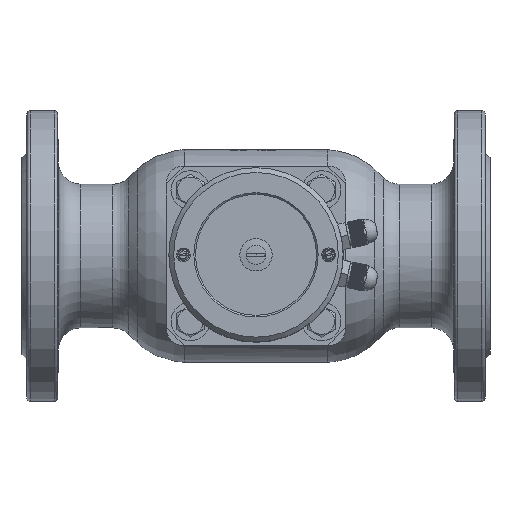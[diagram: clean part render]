
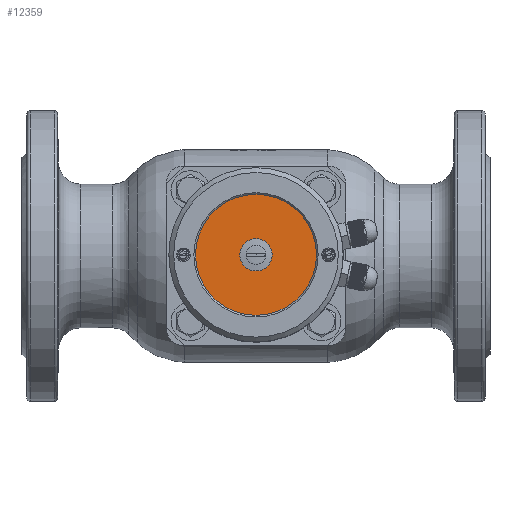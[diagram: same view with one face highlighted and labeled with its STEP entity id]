
A CAD part, top view. The second image highlights one B-rep face of the part: STEP entity #12359.
In plain terms, the highlighted planar face has unit normal (0, 0, 1).
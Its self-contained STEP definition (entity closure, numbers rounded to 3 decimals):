
#12359=ADVANCED_FACE('',(#33839,#33841),#33843,.T.);
#33839=FACE_BOUND('',#33840,.T.);
#33840=EDGE_LOOP('',(#46947));
#33841=FACE_BOUND('',#33842,.T.);
#33842=EDGE_LOOP('',(#46948));
#33843=PLANE('',#33844);
#33844=AXIS2_PLACEMENT_3D('',#33845,#33846,#33847);
#33845=CARTESIAN_POINT('',(-145.,0.,411.506));
#33846=DIRECTION('',(0.,0.,1.));
#33847=DIRECTION('',(1.,0.,0.));
#46947=ORIENTED_EDGE('',*,*,#54083,.T.);
#46948=ORIENTED_EDGE('',*,*,#54088,.F.);
#54083=EDGE_CURVE('',#61908,#61908,#61909,.T.);
#54088=EDGE_CURVE('',#61918,#61918,#61919,.T.);
#61908=VERTEX_POINT('',#106353);
#61909=CIRCLE('',#106354,37.5);
#61918=VERTEX_POINT('',#106378);
#61919=CIRCLE('',#106379,10.007);
#106353=CARTESIAN_POINT('',(-107.5,0.017,411.506));
#106354=AXIS2_PLACEMENT_3D('',#106355,#106356,#106357);
#106355=CARTESIAN_POINT('',(-145.,0.,411.506));
#106356=DIRECTION('',(0.,0.,1.));
#106357=DIRECTION('',(1.,0.,0.));
#106378=CARTESIAN_POINT('',(-134.993,0.004,411.506));
#106379=AXIS2_PLACEMENT_3D('',#106380,#106381,#106382);
#106380=CARTESIAN_POINT('',(-145.,0.,411.506));
#106381=DIRECTION('',(0.,0.,1.));
#106382=DIRECTION('',(1.,0.,0.));
